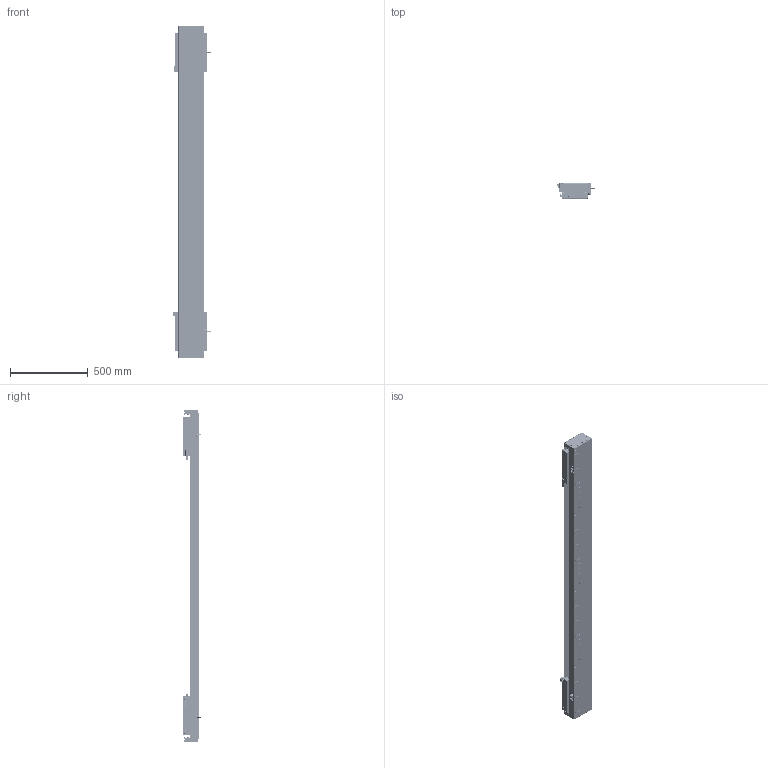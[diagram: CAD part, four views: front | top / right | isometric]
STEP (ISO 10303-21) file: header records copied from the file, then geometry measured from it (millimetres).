
FILE_DESCRIPTION (( 'STEP AP203' ), '1' );
FILE_NAME ('DA-C165-2-C3-T1520-C010-0.2 直线电机.STEP', '2023-06-13T09:23:37', ( '微软用户' ), ( '微软中国' ), 'SwSTEP 2.0', 'SolidWorks 2019', '' );
FILE_SCHEMA (( 'CONFIG_CONTROL_DESIGN' ));
Length unit declared in the file: millimetre
Products named in the file (22): 复件 CU165钢带组件^DA-C165-C3-T-C010-0.2-N 直线电机; 葩璃 CKM03-W075-C1C2-TP-3.0^DA-C165-C3-T-C010-0.2-N 眻盄萇儂; 复件 DA95-HXJ-00 缓冲橡胶^DA-C165-C3-T-C010-0.2-N 直线电机; 复件 DKW-HXJ-JY-00 缓冲橡胶^DA-C165-C3-T-C010-0.2-N 直线电机; 复件 DA165-GD-DG-H-00 端盖^复件 CU165钢带组件_DA-C165-C3-T-C010-0.2-N 直线电机; 复件 XD-U-02L 磁栅尺^DA-C165-C3-T-C010-0.2-N 直线电机_T; IU-CU165-L 菁釱絳寢; 复件 CU165 底座^IU-CU165-L 底座导轨_L2100; 复件 66338-1000-006-00 光电感应块^DA-C165-C3-T-C010-0.2-N 直线电机; 葩璃 PM-Y45^DA-C165-C3-T-C010-0.2-N 眻盄萇儂; 葩璃 CKM01-W075-TRL^DA-C165-C3-T-C010-0.2-N 眻盄萇儂; 葩璃 DA95-GT-T-00^IU-CU165-L 菁釱絳寢_T; DA-C165-2-C3-T1520-C010-0.2 眻盄萇儂; 复件 六角薄螺母 M3^DA-C165-C3-T-C010-0.2-N 直线电机_GB_FASTENER_NUT_STNAB M3-C; 复件 DMA-010-0.2 读数头^DA-C165-C3-T-C010-0.2-N 直线电机; 复件 DA165-GDYK-00 钢带压块^复件 CU165钢带组件_DA-C165-C3-T-C010-0.2-N 直线电机; 复件 DA165-GYP-00 光电感应片^DA-C165-C3-T-C010-0.2-N 直线电机; 复件 DA165-GDLK-00 钢带拉块^复件 CU165钢带组件_DA-C165-C3-T-C010-0.2-N 直线电机; 葩璃 PM-T45^DA-C165-C3-T-C010-0.2-N 眻盄萇儂; 珨极趙賑雄怢啣C3-wf; 复件 DA126-GYP-ZJ-00 中间光电感应片^DA-C165-C3-T-C010-0.2-N 直线电机; 复件 DA165-GD-1860-002-00 钢带盖板^复件 CU165钢带组件_DA-C165-C3-T-C010-0.2-N 直线电机
Assembly tree (45 placements, depth 3):
  DA-C165-2-C3-T1520-C010-0.2 眻盄萇儂
    IU-CU165-L 菁釱絳寢
      复件 CU165 底座^IU-CU165-L 底座导轨_L2100
      葩璃 DA95-GT-T-00^IU-CU165-L 菁釱絳寢_T  x4
    复件 XD-U-02L 磁栅尺^DA-C165-C3-T-C010-0.2-N 直线电机_T
    葩璃 PM-T45^DA-C165-C3-T-C010-0.2-N 眻盄萇儂  x4
    葩璃 CKM01-W075-TRL^DA-C165-C3-T-C010-0.2-N 眻盄萇儂
    复件 CU165钢带组件^DA-C165-C3-T-C010-0.2-N 直线电机
      复件 DA165-GD-DG-H-00 端盖^复件 CU165钢带组件_DA-C165-C3-T-C010-0.2-N 直线电机  x2
      复件 DA165-GDYK-00 钢带压块^复件 CU165钢带组件_DA-C165-C3-T-C010-0.2-N 直线电机  x2
      复件 DA165-GD-1860-002-00 钢带盖板^复件 CU165钢带组件_DA-C165-C3-T-C010-0.2-N 直线电机
      复件 DA165-GDLK-00 钢带拉块^复件 CU165钢带组件_DA-C165-C3-T-C010-0.2-N 直线电机  x2
    复件 DA95-HXJ-00 缓冲橡胶^DA-C165-C3-T-C010-0.2-N 直线电机  x4
    复件 DMA-010-0.2 读数头^DA-C165-C3-T-C010-0.2-N 直线电机  x2
    复件 DA165-GYP-00 光电感应片^DA-C165-C3-T-C010-0.2-N 直线电机  x2
    复件 66338-1000-006-00 光电感应块^DA-C165-C3-T-C010-0.2-N 直线电机
    葩璃 PM-Y45^DA-C165-C3-T-C010-0.2-N 眻盄萇儂
    复件 DA126-GYP-ZJ-00 中间光电感应片^DA-C165-C3-T-C010-0.2-N 直线电机
    葩璃 CKM03-W075-C1C2-TP-3.0^DA-C165-C3-T-C010-0.2-N 眻盄萇儂  x2
    复件 DKW-HXJ-JY-00 缓冲橡胶^DA-C165-C3-T-C010-0.2-N 直线电机  x2
    复件 六角薄螺母 M3^DA-C165-C3-T-C010-0.2-N 直线电机_GB_FASTENER_NUT_STNAB M3-C  x8
    珨极趙賑雄怢啣C3-wf  x2
Bounding box: 247.2 x 111.45 x 2140 mm (x, y, z)
Volume: 14940089.8 mm3; surface area: 4116744.5 mm2
Topology: 121 solids, 221 shells, 6325 faces, 17020 edges, 10546 vertices
Faces by surface type: cylinder 3254, plane 2003, cone 980, torus 80, sphere 8
Entity records: 136544 total; most frequent: CARTESIAN_POINT 35291, ORIENTED_EDGE 20624, DIRECTION 20514, EDGE_CURVE 10312, AXIS2_PLACEMENT_3D 7805, VERTEX_POINT 6700, VECTOR 4904, LINE 4904
